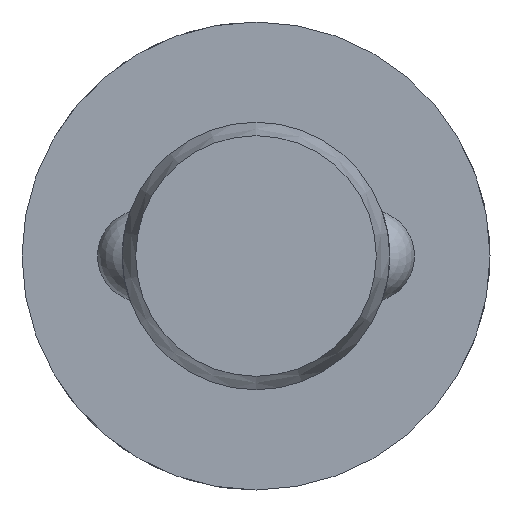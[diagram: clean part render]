
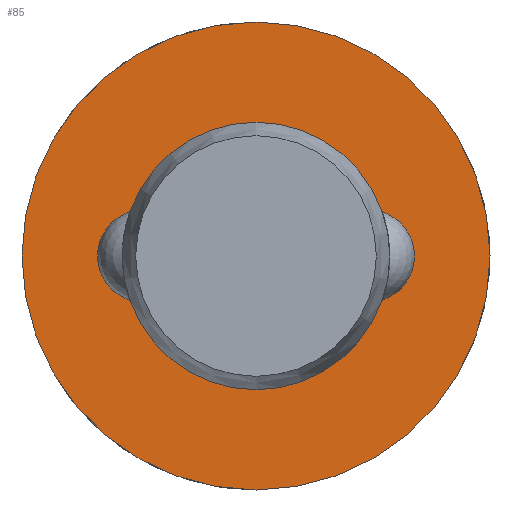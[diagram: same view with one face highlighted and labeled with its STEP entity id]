
A CAD part, left-side view. The second image highlights one B-rep face of the part: STEP entity #85.
In plain terms, the highlighted planar face has unit normal (-1, 0, 0).
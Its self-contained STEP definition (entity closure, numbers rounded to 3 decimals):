
#85 = ADVANCED_FACE( '', ( #130, #131 ), #132, .F. );
#130 = FACE_OUTER_BOUND( '', #200, .T. );
#131 = FACE_BOUND( '', #201, .T. );
#132 = PLANE( '', #202 );
#200 = EDGE_LOOP( '', ( #315 ) );
#201 = EDGE_LOOP( '', ( #316 ) );
#202 = AXIS2_PLACEMENT_3D( '', #317, #318, #319 );
#315 = ORIENTED_EDGE( '', *, *, #458, .F. );
#316 = ORIENTED_EDGE( '', *, *, #455, .T. );
#317 = CARTESIAN_POINT( '', ( 68.2, 4., 0. ) );
#318 = DIRECTION( '', ( 1., 0., 0. ) );
#319 = DIRECTION( '', ( 0., 0., -1. ) );
#455 = EDGE_CURVE( '', #528, #528, #529, .T. );
#458 = EDGE_CURVE( '', #534, #534, #535, .T. );
#528 = VERTEX_POINT( '', #732 );
#529 = CIRCLE( '', #733, 4. );
#534 = VERTEX_POINT( '', #820 );
#535 = CIRCLE( '', #821, 7. );
#732 = CARTESIAN_POINT( '', ( 68.2, 0., -4. ) );
#733 = AXIS2_PLACEMENT_3D( '', #898, #899, #900 );
#820 = CARTESIAN_POINT( '', ( 68.2, 0., -7. ) );
#821 = AXIS2_PLACEMENT_3D( '', #901, #902, #903 );
#898 = CARTESIAN_POINT( '', ( 68.2, 0., 0. ) );
#899 = DIRECTION( '', ( 1., 0., 0. ) );
#900 = DIRECTION( '', ( 0., 0., -1. ) );
#901 = CARTESIAN_POINT( '', ( 68.2, 0., 0. ) );
#902 = DIRECTION( '', ( 1., 0., 0. ) );
#903 = DIRECTION( '', ( 0., 0., -1. ) );
